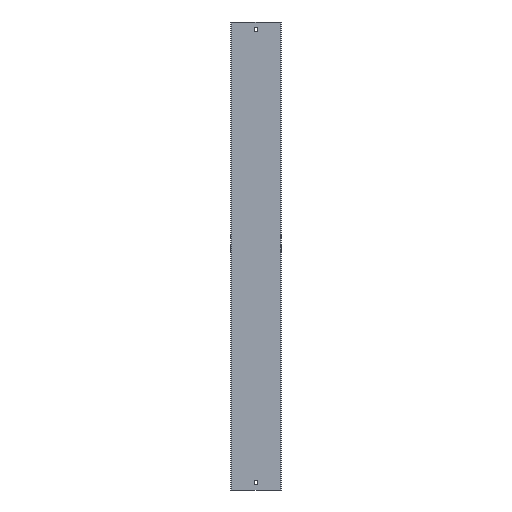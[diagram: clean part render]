
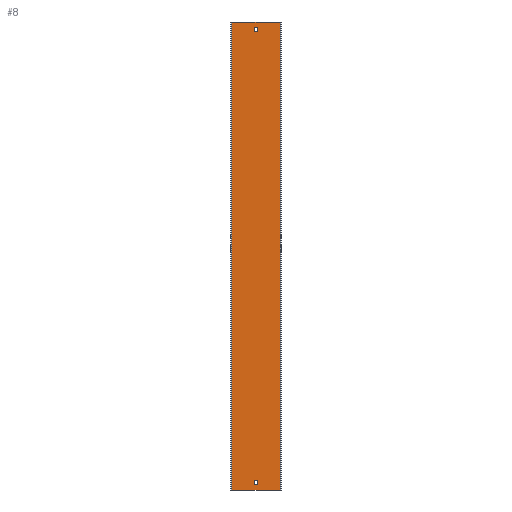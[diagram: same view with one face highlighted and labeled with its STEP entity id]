
A CAD part, front view. The second image highlights one B-rep face of the part: STEP entity #8.
In plain terms, the highlighted planar face has unit normal (0, -1, 0).
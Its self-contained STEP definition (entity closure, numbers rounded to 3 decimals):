
#6 = VECTOR ( 'NONE', #548, 1000. ) ;
#7 = VERTEX_POINT ( 'NONE', #216 ) ;
#8 = ADVANCED_FACE ( 'NONE', ( #169, #272, #91 ), #537, .T. ) ;
#13 = DIRECTION ( 'NONE',  ( 1., 0., 0. ) ) ;
#16 = EDGE_CURVE ( 'NONE', #7, #322, #587, .T. ) ;
#26 = VERTEX_POINT ( 'NONE', #503 ) ;
#32 = AXIS2_PLACEMENT_3D ( 'NONE', #405, #504, #183 ) ;
#33 = VECTOR ( 'NONE', #568, 1000. ) ;
#35 = LINE ( 'NONE', #347, #75 ) ;
#37 = VERTEX_POINT ( 'NONE', #125 ) ;
#59 = VECTOR ( 'NONE', #13, 1000. ) ;
#63 = LINE ( 'NONE', #103, #482 ) ;
#67 = ORIENTED_EDGE ( 'NONE', *, *, #445, .T. ) ;
#70 = DIRECTION ( 'NONE',  ( -1., 0., 0. ) ) ;
#73 = CARTESIAN_POINT ( 'NONE',  ( 3.25, -1.5, -488. ) ) ;
#75 = VECTOR ( 'NONE', #539, 1000. ) ;
#76 = VERTEX_POINT ( 'NONE', #235 ) ;
#90 = ORIENTED_EDGE ( 'NONE', *, *, #16, .T. ) ;
#91 = FACE_BOUND ( 'NONE', #99, .T. ) ;
#93 = VECTOR ( 'NONE', #70, 1000. ) ;
#97 = ORIENTED_EDGE ( 'NONE', *, *, #363, .F. ) ;
#99 = EDGE_LOOP ( 'NONE', ( #253, #67, #90, #440 ) ) ;
#100 = EDGE_CURVE ( 'NONE', #186, #76, #156, .T. ) ;
#103 = CARTESIAN_POINT ( 'NONE',  ( -53.5, -1.5, 500. ) ) ;
#108 = CARTESIAN_POINT ( 'NONE',  ( -3.25, -1.5, 500. ) ) ;
#114 = CARTESIAN_POINT ( 'NONE',  ( -53.5, -1.5, -488. ) ) ;
#116 = VERTEX_POINT ( 'NONE', #328 ) ;
#125 = CARTESIAN_POINT ( 'NONE',  ( 3.25, -1.5, 488. ) ) ;
#137 = EDGE_CURVE ( 'NONE', #116, #314, #376, .T. ) ;
#156 = LINE ( 'NONE', #472, #33 ) ;
#161 = DIRECTION ( 'NONE',  ( -1., 0., 0. ) ) ;
#165 = CARTESIAN_POINT ( 'NONE',  ( 52., -1.5, -500. ) ) ;
#169 = FACE_BOUND ( 'NONE', #490, .T. ) ;
#176 = CARTESIAN_POINT ( 'NONE',  ( -53.5, -1.5, -479. ) ) ;
#177 = DIRECTION ( 'NONE',  ( 0., 0., -1. ) ) ;
#183 = DIRECTION ( 'NONE',  ( 0., 0., -1. ) ) ;
#186 = VERTEX_POINT ( 'NONE', #399 ) ;
#202 = CARTESIAN_POINT ( 'NONE',  ( 3.25, -1.5, 500. ) ) ;
#216 = CARTESIAN_POINT ( 'NONE',  ( -3.25, -1.5, -479. ) ) ;
#221 = VERTEX_POINT ( 'NONE', #462 ) ;
#234 = EDGE_CURVE ( 'NONE', #425, #76, #493, .T. ) ;
#235 = CARTESIAN_POINT ( 'NONE',  ( -52., -1.5, -500. ) ) ;
#244 = VECTOR ( 'NONE', #338, 1000. ) ;
#251 = LINE ( 'NONE', #114, #93 ) ;
#253 = ORIENTED_EDGE ( 'NONE', *, *, #534, .T. ) ;
#255 = DIRECTION ( 'NONE',  ( 0., 0., 1. ) ) ;
#266 = VERTEX_POINT ( 'NONE', #324 ) ;
#267 = ORIENTED_EDGE ( 'NONE', *, *, #413, .F. ) ;
#270 = CARTESIAN_POINT ( 'NONE',  ( -53.5, -1.5, -500. ) ) ;
#272 = FACE_OUTER_BOUND ( 'NONE', #341, .T. ) ;
#283 = DIRECTION ( 'NONE',  ( 0., 0., 1. ) ) ;
#285 = ORIENTED_EDGE ( 'NONE', *, *, #234, .F. ) ;
#292 = CARTESIAN_POINT ( 'NONE',  ( 52., -1.5, 500. ) ) ;
#314 = VERTEX_POINT ( 'NONE', #438 ) ;
#317 = EDGE_CURVE ( 'NONE', #37, #266, #35, .T. ) ;
#320 = VECTOR ( 'NONE', #283, 1000. ) ;
#322 = VERTEX_POINT ( 'NONE', #443 ) ;
#324 = CARTESIAN_POINT ( 'NONE',  ( -3.25, -1.5, 488. ) ) ;
#328 = CARTESIAN_POINT ( 'NONE',  ( -3.25, -1.5, 479. ) ) ;
#338 = DIRECTION ( 'NONE',  ( 0., 0., -1. ) ) ;
#341 = EDGE_LOOP ( 'NONE', ( #285, #97, #391, #356 ) ) ;
#347 = CARTESIAN_POINT ( 'NONE',  ( -53.5, -1.5, 488. ) ) ;
#352 = VECTOR ( 'NONE', #571, 1000. ) ;
#356 = ORIENTED_EDGE ( 'NONE', *, *, #100, .T. ) ;
#363 = EDGE_CURVE ( 'NONE', #221, #425, #389, .T. ) ;
#376 = LINE ( 'NONE', #520, #59 ) ;
#389 = LINE ( 'NONE', #292, #352 ) ;
#391 = ORIENTED_EDGE ( 'NONE', *, *, #429, .T. ) ;
#392 = LINE ( 'NONE', #108, #244 ) ;
#399 = CARTESIAN_POINT ( 'NONE',  ( -52., -1.5, 500. ) ) ;
#405 = CARTESIAN_POINT ( 'NONE',  ( -53.5, -1.5, 500. ) ) ;
#413 = EDGE_CURVE ( 'NONE', #266, #116, #392, .T. ) ;
#425 = VERTEX_POINT ( 'NONE', #165 ) ;
#428 = EDGE_CURVE ( 'NONE', #314, #37, #514, .T. ) ;
#429 = EDGE_CURVE ( 'NONE', #221, #186, #63, .T. ) ;
#438 = CARTESIAN_POINT ( 'NONE',  ( 3.25, -1.5, 479. ) ) ;
#440 = ORIENTED_EDGE ( 'NONE', *, *, #565, .T. ) ;
#443 = CARTESIAN_POINT ( 'NONE',  ( 3.25, -1.5, -479. ) ) ;
#444 = ORIENTED_EDGE ( 'NONE', *, *, #137, .F. ) ;
#445 = EDGE_CURVE ( 'NONE', #26, #7, #573, .T. ) ;
#449 = VECTOR ( 'NONE', #499, 1000. ) ;
#455 = CARTESIAN_POINT ( 'NONE',  ( 3.25, -1.5, 500. ) ) ;
#462 = CARTESIAN_POINT ( 'NONE',  ( 52., -1.5, 500. ) ) ;
#464 = ORIENTED_EDGE ( 'NONE', *, *, #317, .F. ) ;
#468 = ORIENTED_EDGE ( 'NONE', *, *, #428, .F. ) ;
#469 = VECTOR ( 'NONE', #177, 1000. ) ;
#470 = VERTEX_POINT ( 'NONE', #73 ) ;
#472 = CARTESIAN_POINT ( 'NONE',  ( -52., -1.5, 500. ) ) ;
#482 = VECTOR ( 'NONE', #161, 1000. ) ;
#490 = EDGE_LOOP ( 'NONE', ( #267, #464, #468, #444 ) ) ;
#493 = LINE ( 'NONE', #270, #6 ) ;
#496 = LINE ( 'NONE', #455, #469 ) ;
#499 = DIRECTION ( 'NONE',  ( 1., 0., 0. ) ) ;
#503 = CARTESIAN_POINT ( 'NONE',  ( -3.25, -1.5, -488. ) ) ;
#504 = DIRECTION ( 'NONE',  ( 0., -1., 0. ) ) ;
#514 = LINE ( 'NONE', #202, #582 ) ;
#520 = CARTESIAN_POINT ( 'NONE',  ( -53.5, -1.5, 479. ) ) ;
#528 = CARTESIAN_POINT ( 'NONE',  ( -3.25, -1.5, 500. ) ) ;
#534 = EDGE_CURVE ( 'NONE', #470, #26, #251, .T. ) ;
#537 = PLANE ( 'NONE',  #32 ) ;
#539 = DIRECTION ( 'NONE',  ( -1., 0., 0. ) ) ;
#548 = DIRECTION ( 'NONE',  ( -1., 0., 0. ) ) ;
#565 = EDGE_CURVE ( 'NONE', #322, #470, #496, .T. ) ;
#568 = DIRECTION ( 'NONE',  ( 0., 0., -1. ) ) ;
#571 = DIRECTION ( 'NONE',  ( 0., 0., -1. ) ) ;
#573 = LINE ( 'NONE', #528, #320 ) ;
#582 = VECTOR ( 'NONE', #255, 1000. ) ;
#587 = LINE ( 'NONE', #176, #449 ) ;
